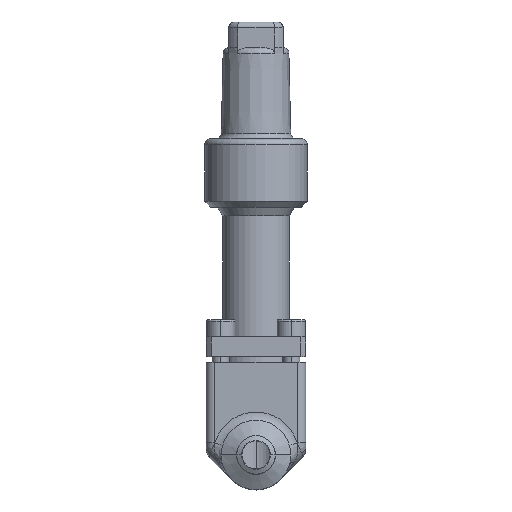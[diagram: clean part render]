
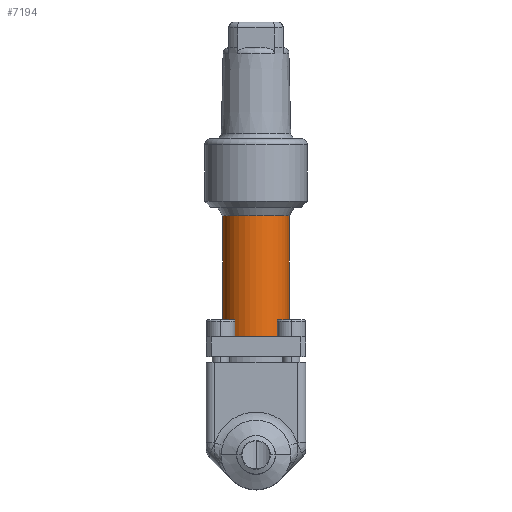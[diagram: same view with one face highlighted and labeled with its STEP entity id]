
A CAD part, top view. The second image highlights one B-rep face of the part: STEP entity #7194.
In plain terms, the highlighted cylindrical face has radius 11.75 mm (diameter 23.5 mm), a partial arc.
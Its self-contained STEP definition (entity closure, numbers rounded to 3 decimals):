
#17443 = LINE ( 'NONE', #17444, #17445 ) ;
#17444 = CARTESIAN_POINT ( 'NONE',  ( 11.75, 0., -52.5 ) ) ;
#17445 = VECTOR ( 'NONE', #17447, 1000. ) ;
#17447 = DIRECTION ( 'NONE',  ( 0., 0., 1. ) ) ;
#1257 = CIRCLE ( 'NONE', #1258, 11.75 ) ;
#1258 = AXIS2_PLACEMENT_3D ( 'NONE', #1259, #1260, #1261 ) ;
#1259 = CARTESIAN_POINT ( 'NONE',  ( 0., 0., -49.469 ) ) ;
#1260 = DIRECTION ( 'NONE',  ( 0., 0., -1. ) ) ;
#1261 = DIRECTION ( 'NONE',  ( -1., 0., 0. ) ) ;
#17675 = CARTESIAN_POINT ( 'NONE',  ( -11.75, 0., -7.2 ) ) ;
#1374 = EDGE_CURVE ( 'NONE', #7534, #4077, #16042, .T. ) ;
#17758 = ORIENTED_EDGE ( 'NONE', *, *, #10072, .T. ) ;
#3036 = CARTESIAN_POINT ( 'NONE',  ( -11.75, 0., -49.469 ) ) ;
#3327 = CARTESIAN_POINT ( 'NONE',  ( 11.75, 0., -49.469 ) ) ;
#3351 = EDGE_LOOP ( 'NONE', ( #14983, #17758, #9805, #12159 ) ) ;
#4077 = VERTEX_POINT ( 'NONE', #6286 ) ;
#6286 = CARTESIAN_POINT ( 'NONE',  ( 11.75, 0., -7.2 ) ) ;
#7194 = ADVANCED_FACE ( 'NONE', ( #12662 ), #12680, .T. ) ;
#7534 = VERTEX_POINT ( 'NONE', #17675 ) ;
#7611 = EDGE_CURVE ( 'NONE', #12577, #12790, #1257, .T. ) ;
#9805 = ORIENTED_EDGE ( 'NONE', *, *, #1374, .T. ) ;
#10072 = EDGE_CURVE ( 'NONE', #12577, #7534, #15148, .T. ) ;
#11804 = EDGE_CURVE ( 'NONE', #12790, #4077, #17443, .T. ) ;
#12159 = ORIENTED_EDGE ( 'NONE', *, *, #11804, .F. ) ;
#12577 = VERTEX_POINT ( 'NONE', #3036 ) ;
#12662 = FACE_OUTER_BOUND ( 'NONE', #3351, .T. ) ;
#12680 = CYLINDRICAL_SURFACE ( 'NONE', #12681, 11.75 ) ;
#12681 = AXIS2_PLACEMENT_3D ( 'NONE', #12682, #12685, #12686 ) ;
#12682 = CARTESIAN_POINT ( 'NONE',  ( 0., 0., -52.5 ) ) ;
#12685 = DIRECTION ( 'NONE',  ( 0., 0., 1. ) ) ;
#12686 = DIRECTION ( 'NONE',  ( 1., 0., 0. ) ) ;
#12790 = VERTEX_POINT ( 'NONE', #3327 ) ;
#14983 = ORIENTED_EDGE ( 'NONE', *, *, #7611, .F. ) ;
#15148 = LINE ( 'NONE', #15149, #15150 ) ;
#15149 = CARTESIAN_POINT ( 'NONE',  ( -11.75, 0., -52.5 ) ) ;
#15150 = VECTOR ( 'NONE', #15151, 1000. ) ;
#15151 = DIRECTION ( 'NONE',  ( 0., 0., 1. ) ) ;
#16042 = CIRCLE ( 'NONE', #16043, 11.75 ) ;
#16043 = AXIS2_PLACEMENT_3D ( 'NONE', #16044, #16045, #16050 ) ;
#16044 = CARTESIAN_POINT ( 'NONE',  ( 0., 0., -7.2 ) ) ;
#16045 = DIRECTION ( 'NONE',  ( 0., 0., -1. ) ) ;
#16050 = DIRECTION ( 'NONE',  ( 1., 0., 0. ) ) ;
